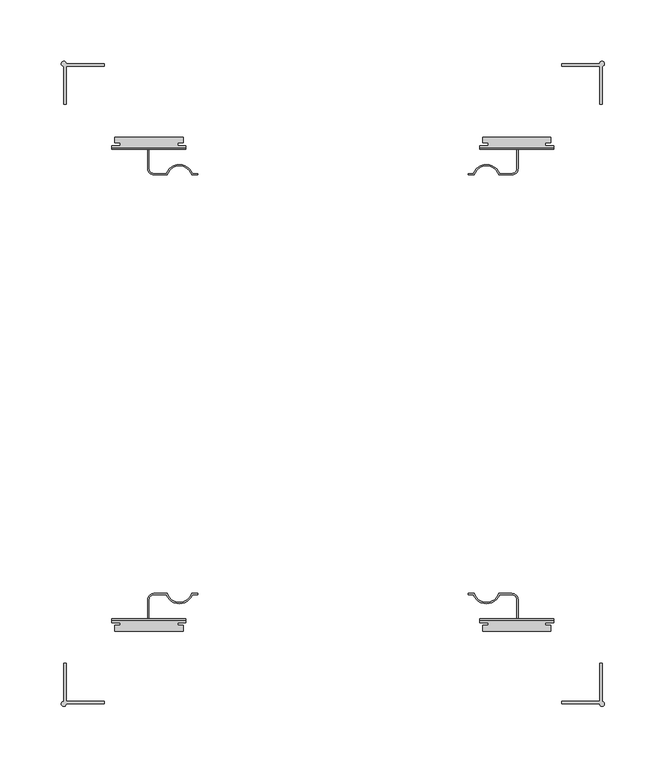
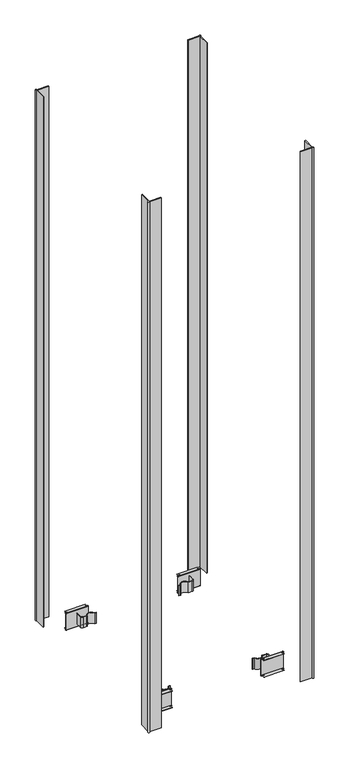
"""IFC4 building model written with IfcOpenShell, lengths in millimetres: column geometry, Облицовка колонн : КНАУФ-Суперлист три слоя."""

import ifcopenshell
import ifcopenshell.guid

model = None  # the IFC model being written
_history = None  # IfcOwnerHistory: only IFC2X3 demands one
_inside = {}  # id of a spatial element -> (the spatial element, [elements in it])
_under = {}  # id of a project, library or spatial element -> (it, [spatial elements below it])
_declared = {}  # id of a project -> (the project, [libraries it declares])
_typed = {}  # id of a type object -> (the type object, [elements of that type])
_made_of = {}  # id of a material, layer set ... -> (it, [elements and type objects made of it])


def new_model(schema):
    """Start an empty IFC model of exactly this schema.

    Asked for "IFC4X3", IfcOpenShell would pick the latest addendum, in which some entities
    have other attributes; the version numbers below select the first issue.
    IFC2X3 requires an IfcOwnerHistory on every rooted entity: one is made here for all.
    """
    global model, _history
    if schema == "IFC4X3":
        model = ifcopenshell.file(schema_version=(4, 3, 0, 0))
    else:
        model = ifcopenshell.file(schema=schema)
    _inside.clear()
    _under.clear()
    _declared.clear()
    _typed.clear()
    _made_of.clear()
    _history = None
    if model.schema == "IFC2X3":
        org = make("IfcOrganization", Name="unknown")
        user = make(
            "IfcPersonAndOrganization",
            ThePerson=make("IfcPerson", FamilyName="unknown"),
            TheOrganization=org,
        )
        app = make(
            "IfcApplication",
            ApplicationDeveloper=org,
            Version="unknown",
            ApplicationFullName="unknown",
            ApplicationIdentifier="unknown",
        )
        _history = make(
            "IfcOwnerHistory",
            OwningUser=user,
            OwningApplication=app,
            ChangeAction="ADDED",
            CreationDate=0,
        )
    return model


def make(cls, **values):
    """One entity of the class cls with the attributes given. An attribute that is None is left unset."""
    return model.create_entity(
        cls, **{name: value for name, value in values.items() if value is not None}
    )


def rooted(cls, **values):
    """An entity with a GlobalId (a new one), such as an element, a storey or a relation."""
    return make(cls, GlobalId=ifcopenshell.guid.new(), OwnerHistory=_history, **values)


def si_unit(unit_type, name, prefix=None):
    """IfcSIUnit, for example si_unit("LENGTHUNIT", "METRE", prefix="MILLI")."""
    return make("IfcSIUnit", UnitType=unit_type, Prefix=prefix, Name=name)


def assignment(units):
    """IfcUnitAssignment: the units of a project."""
    return None if units is None else make("IfcUnitAssignment", Units=units)


def point(xyz):
    """IfcCartesianPoint."""
    return None if xyz is None else make("IfcCartesianPoint", Coordinates=xyz)


def direction(xyz):
    """IfcDirection."""
    return None if xyz is None else make("IfcDirection", DirectionRatios=xyz)


def frame(location, z_axis=None, x_axis=None):
    """IfcAxis2Placement3D, a coordinate frame: its origin and axes. An axis left out is left unset."""
    return make(
        "IfcAxis2Placement3D",
        Location=point(location),
        Axis=direction(z_axis),
        RefDirection=direction(x_axis),
    )


def frame_2d(location, x_axis=None):
    """IfcAxis2Placement2D, a coordinate frame in the plane: its origin and x axis."""
    return make(
        "IfcAxis2Placement2D", Location=point(location), RefDirection=direction(x_axis)
    )


def origin():
    """The frame at (0, 0, 0) with its axes left unset."""
    return frame((0.0, 0.0, 0.0))


def origin_with_axes():
    """The frame at (0, 0, 0) with the z axis (0, 0, 1) and the x axis (1, 0, 0) written out."""
    return frame((0.0, 0.0, 0.0), z_axis=(0.0, 0.0, 1.0), x_axis=(1.0, 0.0, 0.0))


def place(relative_to, where):
    """IfcLocalPlacement: puts the frame where relative to a parent placement (None: the world)."""
    return make(
        "IfcLocalPlacement", PlacementRelTo=relative_to, RelativePlacement=where
    )


def context(
    kind, dimensions, precision=None, world=None, true_north=None, identifier=None
):
    """IfcGeometricRepresentationContext, for example the 3D "Model" context."""
    return make(
        "IfcGeometricRepresentationContext",
        ContextIdentifier=identifier,
        ContextType=kind,
        CoordinateSpaceDimension=dimensions,
        Precision=precision,
        WorldCoordinateSystem=world,
        TrueNorth=true_north,
    )


def project(units=None, contexts=None):
    """IfcProject with its units and contexts."""
    return rooted(
        "IfcProject",
        Name="project",
        RepresentationContexts=contexts,
        UnitsInContext=assignment(units),
    )


def spatial(cls, under=None, at=None, **own):
    """A site, building, storey or space (cls), placed at a placement, below another one or the project."""
    s = rooted(cls, ObjectPlacement=at, **own)
    if under is not None:
        _under.setdefault(under.id(), (under, []))[1].append(s)
    return s


def polyline(points):
    """IfcPolyline through the points."""
    return make("IfcPolyline", Points=[point(p) for p in points])


def circle_curve(where, radius):
    """IfcCircle in the frame where."""
    return make("IfcCircle", Position=where, Radius=radius)


def trimmed(basis, trim1, trim2, sense, master):
    """IfcTrimmedCurve: the piece of a basis curve between two trims."""
    return make(
        "IfcTrimmedCurve",
        BasisCurve=basis,
        Trim1=trim1,
        Trim2=trim2,
        SenseAgreement=sense,
        MasterRepresentation=master,
    )


def segment(curve, same_sense, transition):
    """IfcCompositeCurveSegment."""
    return make(
        "IfcCompositeCurveSegment",
        Transition=transition,
        SameSense=same_sense,
        ParentCurve=curve,
    )


def composite_curve(segments, self_intersect=None):
    """IfcCompositeCurve: segments joined end to end."""
    return make("IfcCompositeCurve", Segments=segments, SelfIntersect=self_intersect)


def outline(outer, holes=None, kind="AREA"):
    """IfcArbitraryClosedProfileDef: a profile drawn as a closed curve; with holes, ...WithVoids."""
    if holes is None:
        return make("IfcArbitraryClosedProfileDef", ProfileType=kind, OuterCurve=outer)
    return make(
        "IfcArbitraryProfileDefWithVoids",
        ProfileType=kind,
        OuterCurve=outer,
        InnerCurves=holes,
    )


def extrude(swept, where, along, depth):
    """IfcExtrudedAreaSolid: the profile swept, set in the frame where, extruded along a direction by depth."""
    return make(
        "IfcExtrudedAreaSolid",
        SweptArea=swept,
        Position=where,
        ExtrudedDirection=direction(along),
        Depth=depth,
    )


def shape(context_of_items, identifier, shape_type, items):
    """IfcShapeRepresentation: the items that make up one representation, for example the "Body"."""
    return make(
        "IfcShapeRepresentation",
        ContextOfItems=context_of_items,
        RepresentationIdentifier=identifier,
        RepresentationType=shape_type,
        Items=items,
    )


def source(mapping_origin, context_of_items, identifier, shape_type, items):
    """IfcRepresentationMap: a shape defined once, which mapped items show again and again."""
    return make(
        "IfcRepresentationMap",
        MappingOrigin=mapping_origin,
        MappedRepresentation=shape(context_of_items, identifier, shape_type, items),
    )


def transform(
    local_origin,
    x_axis=None,
    y_axis=None,
    z_axis=None,
    scale=None,
    scale2=None,
    scale3=None,
    uniform=True,
):
    """IfcCartesianTransformationOperator3D, or its non-uniform kind. x_axis, y_axis, z_axis: its Axis1, 2, 3."""
    if uniform:
        return make(
            "IfcCartesianTransformationOperator3D",
            Axis1=direction(x_axis),
            Axis2=direction(y_axis),
            LocalOrigin=point(local_origin),
            Scale=scale,
            Axis3=direction(z_axis),
        )
    return make(
        "IfcCartesianTransformationOperator3DnonUniform",
        Axis1=direction(x_axis),
        Axis2=direction(y_axis),
        LocalOrigin=point(local_origin),
        Scale=scale,
        Axis3=direction(z_axis),
        Scale2=scale2,
        Scale3=scale3,
    )


def mapped(mapping_source, mapping_target):
    """IfcMappedItem: shows the shape of a source again, moved by a transform."""
    return make(
        "IfcMappedItem", MappingSource=mapping_source, MappingTarget=mapping_target
    )


def made_of(thing, what):
    """Note that an element or type object is made of a material, layer set ...; save() writes the relation."""
    if what is not None:
        _made_of.setdefault(what.id(), (what, []))[1].append(thing)
    return thing


def element(
    cls,
    number,
    at=None,
    inside=None,
    cuts=None,
    type_object=None,
    material=None,
    context=None,
    identifier="Body",
    shape_type=None,
    held_by="IfcProductDefinitionShape",
    body=None,
    shapes=None,
    **own,
):
    """One element of the class cls, such as IfcWall. Its Tag is "e" and its number.

    at: its placement. inside: the storey or other place that contains it. cuts: it is an
    opening in that element (IfcRelVoidsElement). A single representation is given by context,
    identifier, shape_type and body (its items); several are given by shapes. held_by: the class
    of the entity that holds the representations. save() writes the other relations.
    """
    e = rooted(cls, Tag="e%d" % number, ObjectPlacement=at, **own)
    if body is not None:
        shapes = [shape(context, identifier, shape_type, body)]
    if shapes is not None:
        e.Representation = make(held_by, Representations=shapes)
    if inside is not None:
        _inside.setdefault(inside.id(), (inside, []))[1].append(e)
    if cuts is not None:
        rooted(
            "IfcRelVoidsElement", RelatingBuildingElement=cuts, RelatedOpeningElement=e
        )
    if type_object is not None:
        _typed.setdefault(type_object.id(), (type_object, []))[1].append(e)
    return made_of(e, material)


def aggregate(whole, parts):
    """IfcRelAggregates: a whole, such as a stair, and the parts it consists of."""
    return rooted("IfcRelAggregates", RelatingObject=whole, RelatedObjects=parts)


def save(model, path):
    """Write the relations noted so far, then the file.

    IfcRelAggregates (storeys below a building ...), IfcRelContainedInSpatialStructure (elements
    in a storey), IfcRelDefinesByType, IfcRelAssociatesMaterial and IfcRelDeclares: one each for
    every whole, place, type object, material and project.
    """
    for whole, parts in _under.values():
        aggregate(whole, parts)
    for where, things in _inside.values():
        rooted(
            "IfcRelContainedInSpatialStructure",
            RelatedElements=things,
            RelatingStructure=where,
        )
    for kind, things in _typed.values():
        rooted("IfcRelDefinesByType", RelatedObjects=things, RelatingType=kind)
    for what, things in _made_of.values():
        rooted("IfcRelAssociatesMaterial", RelatedObjects=things, RelatingMaterial=what)
    for by, libraries in _declared.values():
        rooted("IfcRelDeclares", RelatingContext=by, RelatedDefinitions=libraries)
    model.write(path)


def plane_surface(at):
    """IfcPlane: the flat surface through the origin of the frame at, square to its z axis."""
    return make("IfcPlane", Position=at)


def cylinder_surface(at, radius):
    """IfcCylindricalSurface: all points at the distance radius from the z axis of the frame at."""
    return make("IfcCylindricalSurface", Position=at, Radius=radius)


def advanced_brep(points, edges, surfaces, faces):
    """IfcAdvancedBrep: a solid bounded by faces that lie on surfaces and meet in shared edges.

    An edge is (start, end): straight between two places in points (the first is 0);
    or (start, end, curve); or (start, end, curve, False) where it runs against its curve.
    A face is (place in surfaces, loops), or (place, loops, False) where it looks against
    its surface's normal. A loop lists edges by number (the first is 1), with a minus sign
    where the edge is run from its end to its start. The first loop is the outer one.
    """
    corners = [point(p) for p in points]
    vertices = [make("IfcVertexPoint", VertexGeometry=c) for c in corners]
    made = []
    for start, end, *more in edges:
        made.append(
            make(
                "IfcEdgeCurve",
                EdgeStart=vertices[start],
                EdgeEnd=vertices[end],
                EdgeGeometry=more[0] if more else make("IfcPolyline", Points=[corners[start], corners[end]]),
                SameSense=more[1] if len(more) > 1 else True,
            )
        )
    hull = []
    for where, loops, *sense in faces:
        bounds = []
        for j, loop in enumerate(loops):
            ring = [make("IfcOrientedEdge", EdgeElement=made[abs(k) - 1], Orientation=k > 0) for k in loop]
            bounds.append(
                make(
                    "IfcFaceOuterBound" if j == 0 else "IfcFaceBound",
                    Bound=make("IfcEdgeLoop", EdgeList=ring),
                    Orientation=True,
                )
            )
        hull.append(make("IfcAdvancedFace", Bounds=bounds, FaceSurface=surfaces[where], SameSense=sense[0] if sense else True))
    return make("IfcAdvancedBrep", Outer=make("IfcClosedShell", CfsFaces=hull))


def column_7eb6c130(model_context):
    return source(origin(), model_context, "Body", "SolidModel", [
        extrude(outline(composite_curve([segment(polyline([(-186.5, -259.0), (-186.5, -261.0311253), (-217.5, -261.0311253)]), True, "CONTINUOUS"), segment(trimmed(circle_curve(frame_2d((-219.4874508, -261.0311253)), 1.9874508), [point((-217.5, -261.0311253))], [point((-219.4874508, -259.0436745))], False, "CARTESIAN"), True, "CONTINUOUS"), segment(polyline([(-219.4874508, -259.0436745), (-219.4874508, -228.0), (-217.5, -228.0), (-217.5, -259.0), (-186.5, -259.0)]), True, "CONTINUOUS")], self_intersect=False)), origin_with_axes(), (0.0, 0.0, 1.0), 1500.0),
        extrude(outline(composite_curve([segment(polyline([(-186.5, 259.0), (-217.5, 259.0), (-217.5, 228.0), (-219.4874508, 228.0), (-219.4874508, 259.0436745)]), True, "CONTINUOUS"), segment(trimmed(circle_curve(frame_2d((-219.4874508, 261.0311253)), 1.9874508), [point((-219.4874508, 259.0436745))], [point((-217.5, 261.0311253))], False, "CARTESIAN"), True, "CONTINUOUS"), segment(polyline([(-217.5, 261.0311253), (-186.5, 261.0311253), (-186.5, 259.0)]), True, "CONTINUOUS")], self_intersect=False)), origin_with_axes(), (0.0, 0.0, 1.0), 1500.0),
        extrude(outline(composite_curve([segment(polyline([(186.5, -259.0), (217.5, -259.0), (217.5, -228.0), (219.4874508, -228.0), (219.4874508, -259.0436745)]), True, "CONTINUOUS"), segment(trimmed(circle_curve(frame_2d((219.4874508, -261.0311253)), 1.9874508), [point((219.4874508, -259.0436745))], [point((217.5, -261.0311253))], False, "CARTESIAN"), True, "CONTINUOUS"), segment(polyline([(217.5, -261.0311253), (186.5, -261.0311253), (186.5, -259.0)]), True, "CONTINUOUS")], self_intersect=False)), origin_with_axes(), (0.0, 0.0, 1.0), 1500.0),
        extrude(outline(composite_curve([segment(polyline([(186.5, 259.0), (186.5, 261.0311253), (217.5, 261.0311253)]), True, "CONTINUOUS"), segment(trimmed(circle_curve(frame_2d((219.4874508, 261.0311253)), 1.9874508), [point((217.5, 261.0311253))], [point((219.4874508, 259.0436745))], False, "CARTESIAN"), True, "CONTINUOUS"), segment(polyline([(219.4874508, 259.0436745), (219.4874508, 228.0), (217.5, 228.0), (217.5, 259.0), (186.5, 259.0)]), True, "CONTINUOUS")], self_intersect=False)), origin_with_axes(), (0.0, 0.0, 1.0), 1500.0),
        advanced_brep(
        [(-180.2, 191.5, 46.0), (-180.2, 192.5, 47.0), (-180.2, 194.5, 47.0), (-180.2, 194.5, 46.0), (-180.2, 192.5, 46.0), (-180.2, 192.5, 0.0), (-180.2, 194.5, 0.0), (-180.2, 194.5, -1.0), (-180.2, 192.5, -1.0), (-180.2, 191.5, 0.0), (-119.8, 191.5, 46.0), (-119.8, 191.5, 0.0), (-119.8, 192.5, -1.0), (-119.8, 194.5, -1.0), (-119.8, 194.5, 0.0), (-119.8, 192.5, 0.0), (-119.8, 192.5, 46.0), (-119.8, 194.5, 46.0), (-119.8, 194.5, 47.0), (-119.8, 192.5, 47.0), (-126.6838154, 194.5, 47.0), (-126.6838154, 196.8, 47.0), (-122.2, 196.8, 47.0), (-122.2, 201.5, 47.0), (-177.8, 201.5, 47.0), (-177.8, 196.8, 47.0), (-173.3161846, 196.8, 47.0), (-173.3161846, 194.5, 47.0), (-177.8, 201.5, 46.0), (-122.2, 201.5, 46.0), (-173.3161846, 194.5, 46.0), (-173.3161846, 196.8, 46.0), (-177.8, 196.8, 46.0), (-122.2, 196.8, 46.0), (-126.6838154, 196.8, 46.0), (-126.6838154, 194.5, 46.0), (-126.6838154, 194.5, 0.0), (-126.6838154, 196.8, 0.0), (-122.2, 196.8, 0.0), (-122.2, 201.5, 0.0), (-177.8, 201.5, 0.0), (-177.8, 196.8, 0.0), (-173.3161846, 196.8, 0.0), (-173.3161846, 194.5, 0.0), (-177.8, 201.5, -1.0), (-122.2, 201.5, -1.0), (-173.3161846, 194.5, -1.0), (-173.3161846, 196.8, -1.0), (-177.8, 196.8, -1.0), (-122.2, 196.8, -1.0), (-126.6838154, 196.8, -1.0), (-126.6838154, 194.5, -1.0)],
        [
            (0, 1, circle_curve(frame((-180.2, 192.5, 46.0), z_axis=(-1.0, 0.0, 0.0), x_axis=(0.0, -1.0, 0.0)), 1.0)),
            (1, 2),
            (2, 3),
            (3, 4),
            (4, 5),
            (5, 6),
            (6, 7),
            (7, 8),
            (8, 9, circle_curve(frame((-180.2, 192.5, 0.0), z_axis=(-1.0, 0.0, 0.0), x_axis=(0.0, -1.0, 0.0)), 1.0)),
            (9, 0),
            (10, 11),
            (11, 12, circle_curve(frame((-119.8, 192.5, 0.0), z_axis=(1.0, 0.0, 0.0), x_axis=(0.0, -1.0, 0.0)), 1.0)),
            (12, 13),
            (13, 14),
            (14, 15),
            (15, 16),
            (16, 17),
            (17, 18),
            (18, 19),
            (19, 10, circle_curve(frame((-119.8, 192.5, 46.0), z_axis=(1.0, 0.0, 0.0), x_axis=(0.0, -1.0, 0.0)), 1.0)),
            (0, 10),
            (19, 1),
            (18, 20),
            (20, 21),
            (21, 22),
            (22, 23),
            (23, 24),
            (24, 25),
            (25, 26),
            (26, 27),
            (27, 2),
            (28, 24),
            (23, 29),
            (29, 28),
            (16, 4),
            (3, 30),
            (30, 31),
            (31, 32),
            (32, 28),
            (29, 33),
            (33, 34),
            (34, 35),
            (35, 17),
            (15, 5),
            (14, 36),
            (36, 37),
            (37, 38),
            (38, 39),
            (39, 40),
            (40, 41),
            (41, 42),
            (42, 43),
            (43, 6),
            (44, 40),
            (39, 45),
            (45, 44),
            (12, 8),
            (7, 46),
            (46, 47),
            (47, 48),
            (48, 44),
            (45, 49),
            (49, 50),
            (50, 51),
            (51, 13),
            (11, 9),
            (30, 27),
            (26, 31),
            (46, 43),
            (42, 47),
            (25, 32),
            (41, 48),
            (34, 21),
            (20, 35),
            (50, 37),
            (36, 51),
            (33, 22),
            (49, 38),
        ],
        [
            plane_surface(frame((-180.2, 191.5, 46.0), z_axis=(-1.0, 0.0, 0.0), x_axis=(0.0, 0.0, 1.0))),
            plane_surface(frame((-119.8, 191.5, 46.0), z_axis=(1.0, 0.0, 0.0), x_axis=(0.0, 0.0, -1.0))),
            cylinder_surface(frame((-119.8, 192.5, 46.0), z_axis=(-1.0, 0.0, 0.0), x_axis=(0.0, -1.0, 0.0)), 1.0),
            plane_surface(frame((-180.2, 192.5, 47.0), z_axis=(0.0, 0.0, 1.0), x_axis=(1.0, 0.0, 0.0))),
            plane_surface(frame((-180.2, 201.5, 47.0), z_axis=(0.0, 1.0, 0.0), x_axis=(1.0, 0.0, 0.0))),
            plane_surface(frame((-180.2, 201.5, 46.0), z_axis=(0.0, 0.0, -1.0), x_axis=(1.0, 0.0, 0.0))),
            plane_surface(frame((-180.2, 192.5, 46.0), z_axis=(0.0, 1.0, 0.0), x_axis=(1.0, 0.0, 0.0))),
            plane_surface(frame((-180.2, 192.5, 0.0), z_axis=(0.0, 0.0, 1.0), x_axis=(1.0, 0.0, 0.0))),
            plane_surface(frame((-180.2, 201.5, 0.0), z_axis=(0.0, 1.0, 0.0), x_axis=(1.0, 0.0, 0.0))),
            plane_surface(frame((-180.2, 201.5, -1.0), z_axis=(0.0, 0.0, -1.0), x_axis=(1.0, 0.0, 0.0))),
            cylinder_surface(frame((-119.8, 192.5, 0.0), z_axis=(-1.0, 0.0, 0.0), x_axis=(0.0, -1.0, 0.0)), 1.0),
            plane_surface(frame((-180.2, 191.5, 0.0), z_axis=(0.0, -1.0, 0.0), x_axis=(1.0, 0.0, 0.0))),
            plane_surface(frame((-173.3161846, 194.5, 47.0), z_axis=(-1.0, 0.0, 0.0), x_axis=(0.0, 0.0, -1.0))),
            plane_surface(frame((-173.3161846, 196.8, 47.0), z_axis=(0.0, -1.0, 0.0), x_axis=(0.0, 0.0, -1.0))),
            plane_surface(frame((-177.8, 196.8, 47.0), z_axis=(-1.0, 0.0, 0.0), x_axis=(0.0, 0.0, -1.0))),
            plane_surface(frame((-180.2, 194.5, 47.0), z_axis=(0.0, 1.0, 0.0), x_axis=(0.0, 0.0, -1.0))),
            plane_surface(frame((-126.6838154, 196.8, 47.0), z_axis=(1.0, 0.0, 0.0), x_axis=(0.0, 0.0, -1.0))),
            plane_surface(frame((-122.2, 196.8, 47.0), z_axis=(0.0, -1.0, 0.0), x_axis=(0.0, 0.0, -1.0))),
            plane_surface(frame((-122.2, 201.5, 47.0), z_axis=(1.0, 0.0, 0.0), x_axis=(0.0, 0.0, -1.0))),
            plane_surface(frame((-126.6838154, 194.5, 47.0), z_axis=(0.0, 1.0, 0.0), x_axis=(0.0, 0.0, -1.0))),
        ],
        [
            (0, [[1, 2, 3, 4, 5, 6, 7, 8, 9, 10]]),
            (1, [[11, 12, 13, 14, 15, 16, 17, 18, 19, 20]]),
            (2, [[-1, 21, -20, 22]]),
            (3, [[-22, -19, 23, 24, 25, 26, 27, 28, 29, 30, 31, -2]]),
            (4, [[32, -27, 33, 34]]),
            (5, [[35, -4, 36, 37, 38, 39, -34, 40, 41, 42, 43, -17]]),
            (6, [[-5, -35, -16, 44]]),
            (7, [[-44, -15, 45, 46, 47, 48, 49, 50, 51, 52, 53, -6]]),
            (8, [[54, -49, 55, 56]]),
            (9, [[57, -8, 58, 59, 60, 61, -56, 62, 63, 64, 65, -13]]),
            (10, [[-9, -57, -12, 66]]),
            (11, [[-10, -66, -11, -21]]),
            (12, [[67, -30, 68, -37]]),
            (12, [[69, -52, 70, -59]]),
            (13, [[-68, -29, 71, -38]]),
            (13, [[-70, -51, 72, -60]]),
            (14, [[-71, -28, -32, -39]]),
            (14, [[-72, -50, -54, -61]]),
            (15, [[-67, -36, -3, -31]]),
            (15, [[-69, -58, -7, -53]]),
            (16, [[73, -24, 74, -42]]),
            (16, [[75, -46, 76, -64]]),
            (17, [[-73, -41, 77, -25]]),
            (17, [[-75, -63, 78, -47]]),
            (18, [[-77, -40, -33, -26]]),
            (18, [[-78, -62, -55, -48]]),
            (19, [[-74, -23, -18, -43]]),
            (19, [[-76, -45, -14, -65]]),
        ],
    ),
        extrude(outline(composite_curve([segment(trimmed(circle_curve(frame_2d((-125.2, 167.4974781)), 10.5025219), [point((-115.2, 170.7073015))], [point((-135.2, 170.7073015))], True, "CARTESIAN"), True, "CONTINUOUS"), segment(polyline([(-135.2, 170.7073015), (-146.0, 170.7073015)]), True, "CONTINUOUS"), segment(trimmed(circle_curve(frame_2d((-146.0, 175.7073015)), 5.0), [point((-146.0, 170.7073015))], [point((-151.0, 175.7073015))], False, "CARTESIAN"), True, "CONTINUOUS"), segment(polyline([(-151.0, 175.7073015), (-151.0, 191.5), (-150.0, 191.5), (-150.0, 175.7073015)]), True, "CONTINUOUS"), segment(trimmed(circle_curve(frame_2d((-146.0, 175.7073015)), 4.0), [point((-150.0, 175.7073015))], [point((-146.0, 171.7073015))], True, "CARTESIAN"), True, "CONTINUOUS"), segment(polyline([(-146.0, 171.7073015), (-135.9044569, 171.7073015)]), True, "CONTINUOUS"), segment(trimmed(circle_curve(frame_2d((-125.2, 167.4974781)), 11.5025219), [point((-135.9044569, 171.7073015))], [point((-114.4955431, 171.7073015))], False, "CARTESIAN"), True, "CONTINUOUS"), segment(polyline([(-114.4955431, 171.7073015), (-110.2, 171.7073015), (-110.2, 170.7073015), (-115.2, 170.7073015)]), True, "CONTINUOUS")], self_intersect=False)), frame((0.0, 0.0, 8.0), z_axis=(0.0, 0.0, 1.0), x_axis=(1.0, 0.0, 0.0)), (0.0, 0.0, 1.0), 30.0),
        advanced_brep(
        [(180.2, 191.5, 46.0), (180.2, 191.5, 0.0), (180.2, 192.5, -1.0), (180.2, 194.5, -1.0), (180.2, 194.5, 0.0), (180.2, 192.5, 0.0), (180.2, 192.5, 46.0), (180.2, 194.5, 46.0), (180.2, 194.5, 47.0), (180.2, 192.5, 47.0), (119.8, 191.5, 46.0), (119.8, 192.5, 47.0), (119.8, 194.5, 47.0), (119.8, 194.5, 46.0), (119.8, 192.5, 46.0), (119.8, 192.5, 0.0), (119.8, 194.5, 0.0), (119.8, 194.5, -1.0), (119.8, 192.5, -1.0), (119.8, 191.5, 0.0), (173.3161846, 194.5, 47.0), (173.3161846, 196.8, 47.0), (177.8, 196.8, 47.0), (177.8, 201.5, 47.0), (122.2, 201.5, 47.0), (122.2, 196.8, 47.0), (126.6838154, 196.8, 47.0), (126.6838154, 194.5, 47.0), (177.8, 201.5, 46.0), (122.2, 201.5, 46.0), (126.6838154, 194.5, 46.0), (126.6838154, 196.8, 46.0), (122.2, 196.8, 46.0), (177.8, 196.8, 46.0), (173.3161846, 196.8, 46.0), (173.3161846, 194.5, 46.0), (173.3161846, 194.5, 0.0), (173.3161846, 196.8, 0.0), (177.8, 196.8, 0.0), (177.8, 201.5, 0.0), (122.2, 201.5, 0.0), (122.2, 196.8, 0.0), (126.6838154, 196.8, 0.0), (126.6838154, 194.5, 0.0), (177.8, 201.5, -1.0), (122.2, 201.5, -1.0), (126.6838154, 194.5, -1.0), (126.6838154, 196.8, -1.0), (122.2, 196.8, -1.0), (177.8, 196.8, -1.0), (173.3161846, 196.8, -1.0), (173.3161846, 194.5, -1.0)],
        [
            (0, 1),
            (1, 2, circle_curve(frame((180.2, 192.5, 0.0), z_axis=(1.0, 0.0, 0.0), x_axis=(0.0, -1.0, 0.0)), 1.0)),
            (2, 3),
            (3, 4),
            (4, 5),
            (5, 6),
            (6, 7),
            (7, 8),
            (8, 9),
            (9, 0, circle_curve(frame((180.2, 192.5, 46.0), z_axis=(1.0, 0.0, 0.0), x_axis=(0.0, -1.0, 0.0)), 1.0)),
            (10, 11, circle_curve(frame((119.8, 192.5, 46.0), z_axis=(-1.0, 0.0, 0.0), x_axis=(0.0, -1.0, 0.0)), 1.0)),
            (11, 12),
            (12, 13),
            (13, 14),
            (14, 15),
            (15, 16),
            (16, 17),
            (17, 18),
            (18, 19, circle_curve(frame((119.8, 192.5, 0.0), z_axis=(-1.0, 0.0, 0.0), x_axis=(0.0, -1.0, 0.0)), 1.0)),
            (19, 10),
            (9, 11),
            (10, 0),
            (8, 20),
            (20, 21),
            (21, 22),
            (22, 23),
            (23, 24),
            (24, 25),
            (25, 26),
            (26, 27),
            (27, 12),
            (28, 29),
            (29, 24),
            (23, 28),
            (13, 30),
            (30, 31),
            (31, 32),
            (32, 29),
            (28, 33),
            (33, 34),
            (34, 35),
            (35, 7),
            (6, 14),
            (5, 15),
            (4, 36),
            (36, 37),
            (37, 38),
            (38, 39),
            (39, 40),
            (40, 41),
            (41, 42),
            (42, 43),
            (43, 16),
            (44, 45),
            (45, 40),
            (39, 44),
            (17, 46),
            (46, 47),
            (47, 48),
            (48, 45),
            (44, 49),
            (49, 50),
            (50, 51),
            (51, 3),
            (2, 18),
            (1, 19),
            (34, 21),
            (20, 35),
            (50, 37),
            (36, 51),
            (33, 22),
            (49, 38),
            (30, 27),
            (26, 31),
            (46, 43),
            (42, 47),
            (25, 32),
            (41, 48),
        ],
        [
            plane_surface(frame((180.2, 191.5, 46.0), z_axis=(1.0, 0.0, 0.0), x_axis=(0.0, 0.0, 1.0))),
            plane_surface(frame((119.8, 191.5, 46.0), z_axis=(-1.0, 0.0, 0.0), x_axis=(0.0, 0.0, -1.0))),
            cylinder_surface(frame((119.8, 192.5, 46.0), z_axis=(1.0, 0.0, 0.0), x_axis=(0.0, -1.0, 0.0)), 1.0),
            plane_surface(frame((180.2, 192.5, 47.0), z_axis=(0.0, 0.0, 1.0), x_axis=(-1.0, 0.0, 0.0))),
            plane_surface(frame((180.2, 201.5, 47.0), z_axis=(0.0, 1.0, 0.0), x_axis=(-1.0, 0.0, 0.0))),
            plane_surface(frame((180.2, 201.5, 46.0), z_axis=(0.0, 0.0, -1.0), x_axis=(-1.0, 0.0, 0.0))),
            plane_surface(frame((180.2, 192.5, 46.0), z_axis=(0.0, 1.0, 0.0), x_axis=(-1.0, 0.0, 0.0))),
            plane_surface(frame((180.2, 192.5, 0.0), z_axis=(0.0, 0.0, 1.0), x_axis=(-1.0, 0.0, 0.0))),
            plane_surface(frame((180.2, 201.5, 0.0), z_axis=(0.0, 1.0, 0.0), x_axis=(-1.0, 0.0, 0.0))),
            plane_surface(frame((180.2, 201.5, -1.0), z_axis=(0.0, 0.0, -1.0), x_axis=(-1.0, 0.0, 0.0))),
            cylinder_surface(frame((119.8, 192.5, 0.0), z_axis=(1.0, 0.0, 0.0), x_axis=(0.0, -1.0, 0.0)), 1.0),
            plane_surface(frame((180.2, 191.5, 0.0), z_axis=(0.0, -1.0, 0.0), x_axis=(-1.0, 0.0, 0.0))),
            plane_surface(frame((173.3161846, 194.5, 47.0), z_axis=(1.0, 0.0, 0.0), x_axis=(0.0, 0.0, -1.0))),
            plane_surface(frame((173.3161846, 196.8, 47.0), z_axis=(0.0, -1.0, 0.0), x_axis=(0.0, 0.0, -1.0))),
            plane_surface(frame((177.8, 196.8, 47.0), z_axis=(1.0, 0.0, 0.0), x_axis=(0.0, 0.0, -1.0))),
            plane_surface(frame((180.2, 194.5, 47.0), z_axis=(0.0, 1.0, 0.0), x_axis=(0.0, 0.0, -1.0))),
            plane_surface(frame((126.6838154, 196.8, 47.0), z_axis=(-1.0, 0.0, 0.0), x_axis=(0.0, 0.0, -1.0))),
            plane_surface(frame((122.2, 196.8, 47.0), z_axis=(0.0, -1.0, 0.0), x_axis=(0.0, 0.0, -1.0))),
            plane_surface(frame((122.2, 201.5, 47.0), z_axis=(-1.0, 0.0, 0.0), x_axis=(0.0, 0.0, -1.0))),
            plane_surface(frame((126.6838154, 194.5, 47.0), z_axis=(0.0, 1.0, 0.0), x_axis=(0.0, 0.0, -1.0))),
        ],
        [
            (0, [[1, 2, 3, 4, 5, 6, 7, 8, 9, 10]]),
            (1, [[11, 12, 13, 14, 15, 16, 17, 18, 19, 20]]),
            (2, [[21, -11, 22, -10]]),
            (3, [[-9, 23, 24, 25, 26, 27, 28, 29, 30, 31, -12, -21]]),
            (4, [[32, 33, -27, 34]]),
            (5, [[-14, 35, 36, 37, 38, -32, 39, 40, 41, 42, -7, 43]]),
            (6, [[44, -15, -43, -6]]),
            (7, [[-5, 45, 46, 47, 48, 49, 50, 51, 52, 53, -16, -44]]),
            (8, [[54, 55, -49, 56]]),
            (9, [[-18, 57, 58, 59, 60, -54, 61, 62, 63, 64, -3, 65]]),
            (10, [[66, -19, -65, -2]]),
            (11, [[-22, -20, -66, -1]]),
            (12, [[-41, 67, -24, 68]]),
            (12, [[-63, 69, -46, 70]]),
            (13, [[-40, 71, -25, -67]]),
            (13, [[-62, 72, -47, -69]]),
            (14, [[-39, -34, -26, -71]]),
            (14, [[-61, -56, -48, -72]]),
            (15, [[-23, -8, -42, -68]]),
            (15, [[-45, -4, -64, -70]]),
            (16, [[-36, 73, -30, 74]]),
            (16, [[-58, 75, -52, 76]]),
            (17, [[-29, 77, -37, -74]]),
            (17, [[-51, 78, -59, -76]]),
            (18, [[-28, -33, -38, -77]]),
            (18, [[-50, -55, -60, -78]]),
            (19, [[-35, -13, -31, -73]]),
            (19, [[-57, -17, -53, -75]]),
        ],
    ),
        extrude(outline(composite_curve([segment(polyline([(115.2, 170.7073015), (110.2, 170.7073015), (110.2, 171.7073015), (114.4955431, 171.7073015)]), True, "CONTINUOUS"), segment(trimmed(circle_curve(frame_2d((125.2, 167.4974781)), 11.5025219), [point((114.4955431, 171.7073015))], [point((135.9044569, 171.7073015))], False, "CARTESIAN"), True, "CONTINUOUS"), segment(polyline([(135.9044569, 171.7073015), (146.0, 171.7073015)]), True, "CONTINUOUS"), segment(trimmed(circle_curve(frame_2d((146.0, 175.7073015)), 4.0), [point((146.0, 171.7073015))], [point((150.0, 175.7073015))], True, "CARTESIAN"), True, "CONTINUOUS"), segment(polyline([(150.0, 175.7073015), (150.0, 191.5), (151.0, 191.5), (151.0, 175.7073015)]), True, "CONTINUOUS"), segment(trimmed(circle_curve(frame_2d((146.0, 175.7073015)), 5.0), [point((151.0, 175.7073015))], [point((146.0, 170.7073015))], False, "CARTESIAN"), True, "CONTINUOUS"), segment(polyline([(146.0, 170.7073015), (135.2, 170.7073015)]), True, "CONTINUOUS"), segment(trimmed(circle_curve(frame_2d((125.2, 167.4974781)), 10.5025219), [point((135.2, 170.7073015))], [point((115.2, 170.7073015))], True, "CARTESIAN"), True, "CONTINUOUS")], self_intersect=False)), frame((0.0, 0.0, 8.0), z_axis=(0.0, 0.0, 1.0), x_axis=(1.0, 0.0, 0.0)), (0.0, 0.0, 1.0), 30.0),
        advanced_brep(
        [(-180.2, -191.5, 46.0), (-180.2, -191.5, 0.0), (-180.2, -192.5, -1.0), (-180.2, -194.5, -1.0), (-180.2, -194.5, 0.0), (-180.2, -192.5, 0.0), (-180.2, -192.5, 46.0), (-180.2, -194.5, 46.0), (-180.2, -194.5, 47.0), (-180.2, -192.5, 47.0), (-119.8, -191.5, 46.0), (-119.8, -192.5, 47.0), (-119.8, -194.5, 47.0), (-119.8, -194.5, 46.0), (-119.8, -192.5, 46.0), (-119.8, -192.5, 0.0), (-119.8, -194.5, 0.0), (-119.8, -194.5, -1.0), (-119.8, -192.5, -1.0), (-119.8, -191.5, 0.0), (-173.3161846, -194.5, 47.0), (-173.3161846, -196.8, 47.0), (-177.8, -196.8, 47.0), (-177.8, -201.5, 47.0), (-122.2, -201.5, 47.0), (-122.2, -196.8, 47.0), (-126.6838154, -196.8, 47.0), (-126.6838154, -194.5, 47.0), (-177.8, -201.5, 46.0), (-122.2, -201.5, 46.0), (-126.6838154, -194.5, 46.0), (-126.6838154, -196.8, 46.0), (-122.2, -196.8, 46.0), (-177.8, -196.8, 46.0), (-173.3161846, -196.8, 46.0), (-173.3161846, -194.5, 46.0), (-173.3161846, -194.5, 0.0), (-173.3161846, -196.8, 0.0), (-177.8, -196.8, 0.0), (-177.8, -201.5, 0.0), (-122.2, -201.5, 0.0), (-122.2, -196.8, 0.0), (-126.6838154, -196.8, 0.0), (-126.6838154, -194.5, 0.0), (-177.8, -201.5, -1.0), (-122.2, -201.5, -1.0), (-126.6838154, -194.5, -1.0), (-126.6838154, -196.8, -1.0), (-122.2, -196.8, -1.0), (-177.8, -196.8, -1.0), (-173.3161846, -196.8, -1.0), (-173.3161846, -194.5, -1.0)],
        [
            (0, 1),
            (1, 2, circle_curve(frame((-180.2, -192.5, 0.0), z_axis=(-1.0, 0.0, 0.0), x_axis=(0.0, 1.0, 0.0)), 1.0)),
            (2, 3),
            (3, 4),
            (4, 5),
            (5, 6),
            (6, 7),
            (7, 8),
            (8, 9),
            (9, 0, circle_curve(frame((-180.2, -192.5, 46.0), z_axis=(-1.0, 0.0, 0.0), x_axis=(0.0, 1.0, 0.0)), 1.0)),
            (10, 11, circle_curve(frame((-119.8, -192.5, 46.0), z_axis=(1.0, 0.0, 0.0), x_axis=(0.0, 1.0, 0.0)), 1.0)),
            (11, 12),
            (12, 13),
            (13, 14),
            (14, 15),
            (15, 16),
            (16, 17),
            (17, 18),
            (18, 19, circle_curve(frame((-119.8, -192.5, 0.0), z_axis=(1.0, 0.0, 0.0), x_axis=(0.0, 1.0, 0.0)), 1.0)),
            (19, 10),
            (9, 11),
            (10, 0),
            (8, 20),
            (20, 21),
            (21, 22),
            (22, 23),
            (23, 24),
            (24, 25),
            (25, 26),
            (26, 27),
            (27, 12),
            (28, 29),
            (29, 24),
            (23, 28),
            (13, 30),
            (30, 31),
            (31, 32),
            (32, 29),
            (28, 33),
            (33, 34),
            (34, 35),
            (35, 7),
            (6, 14),
            (5, 15),
            (4, 36),
            (36, 37),
            (37, 38),
            (38, 39),
            (39, 40),
            (40, 41),
            (41, 42),
            (42, 43),
            (43, 16),
            (44, 45),
            (45, 40),
            (39, 44),
            (17, 46),
            (46, 47),
            (47, 48),
            (48, 45),
            (44, 49),
            (49, 50),
            (50, 51),
            (51, 3),
            (2, 18),
            (1, 19),
            (34, 21),
            (20, 35),
            (50, 37),
            (36, 51),
            (33, 22),
            (49, 38),
            (30, 27),
            (26, 31),
            (46, 43),
            (42, 47),
            (25, 32),
            (41, 48),
        ],
        [
            plane_surface(frame((-180.2, -191.5, 46.0), z_axis=(-1.0, 0.0, 0.0), x_axis=(0.0, 0.0, 1.0))),
            plane_surface(frame((-119.8, -191.5, 46.0), z_axis=(1.0, 0.0, 0.0), x_axis=(0.0, 0.0, -1.0))),
            cylinder_surface(frame((-119.8, -192.5, 46.0), z_axis=(-1.0, 0.0, 0.0), x_axis=(0.0, 1.0, 0.0)), 1.0),
            plane_surface(frame((-180.2, -192.5, 47.0), z_axis=(0.0, 0.0, 1.0), x_axis=(1.0, 0.0, 0.0))),
            plane_surface(frame((-180.2, -201.5, 47.0), z_axis=(0.0, -1.0, 0.0), x_axis=(1.0, 0.0, 0.0))),
            plane_surface(frame((-180.2, -201.5, 46.0), z_axis=(0.0, 0.0, -1.0), x_axis=(1.0, 0.0, 0.0))),
            plane_surface(frame((-180.2, -192.5, 46.0), z_axis=(0.0, -1.0, 0.0), x_axis=(1.0, 0.0, 0.0))),
            plane_surface(frame((-180.2, -192.5, 0.0), z_axis=(0.0, 0.0, 1.0), x_axis=(1.0, 0.0, 0.0))),
            plane_surface(frame((-180.2, -201.5, 0.0), z_axis=(0.0, -1.0, 0.0), x_axis=(1.0, 0.0, 0.0))),
            plane_surface(frame((-180.2, -201.5, -1.0), z_axis=(0.0, 0.0, -1.0), x_axis=(1.0, 0.0, 0.0))),
            cylinder_surface(frame((-119.8, -192.5, 0.0), z_axis=(-1.0, 0.0, 0.0), x_axis=(0.0, 1.0, 0.0)), 1.0),
            plane_surface(frame((-180.2, -191.5, 0.0), z_axis=(0.0, 1.0, 0.0), x_axis=(1.0, 0.0, 0.0))),
            plane_surface(frame((-173.3161846, -194.5, 47.0), z_axis=(-1.0, 0.0, 0.0), x_axis=(0.0, 0.0, -1.0))),
            plane_surface(frame((-173.3161846, -196.8, 47.0), z_axis=(0.0, 1.0, 0.0), x_axis=(0.0, 0.0, -1.0))),
            plane_surface(frame((-177.8, -196.8, 47.0), z_axis=(-1.0, 0.0, 0.0), x_axis=(0.0, 0.0, -1.0))),
            plane_surface(frame((-180.2, -194.5, 47.0), z_axis=(0.0, -1.0, 0.0), x_axis=(0.0, 0.0, -1.0))),
            plane_surface(frame((-126.6838154, -196.8, 47.0), z_axis=(1.0, 0.0, 0.0), x_axis=(0.0, 0.0, -1.0))),
            plane_surface(frame((-122.2, -196.8, 47.0), z_axis=(0.0, 1.0, 0.0), x_axis=(0.0, 0.0, -1.0))),
            plane_surface(frame((-122.2, -201.5, 47.0), z_axis=(1.0, 0.0, 0.0), x_axis=(0.0, 0.0, -1.0))),
            plane_surface(frame((-126.6838154, -194.5, 47.0), z_axis=(0.0, -1.0, 0.0), x_axis=(0.0, 0.0, -1.0))),
        ],
        [
            (0, [[1, 2, 3, 4, 5, 6, 7, 8, 9, 10]]),
            (1, [[11, 12, 13, 14, 15, 16, 17, 18, 19, 20]]),
            (2, [[21, -11, 22, -10]]),
            (3, [[-9, 23, 24, 25, 26, 27, 28, 29, 30, 31, -12, -21]]),
            (4, [[32, 33, -27, 34]]),
            (5, [[-14, 35, 36, 37, 38, -32, 39, 40, 41, 42, -7, 43]]),
            (6, [[44, -15, -43, -6]]),
            (7, [[-5, 45, 46, 47, 48, 49, 50, 51, 52, 53, -16, -44]]),
            (8, [[54, 55, -49, 56]]),
            (9, [[-18, 57, 58, 59, 60, -54, 61, 62, 63, 64, -3, 65]]),
            (10, [[66, -19, -65, -2]]),
            (11, [[-22, -20, -66, -1]]),
            (12, [[-41, 67, -24, 68]]),
            (12, [[-63, 69, -46, 70]]),
            (13, [[-40, 71, -25, -67]]),
            (13, [[-62, 72, -47, -69]]),
            (14, [[-39, -34, -26, -71]]),
            (14, [[-61, -56, -48, -72]]),
            (15, [[-23, -8, -42, -68]]),
            (15, [[-45, -4, -64, -70]]),
            (16, [[-36, 73, -30, 74]]),
            (16, [[-58, 75, -52, 76]]),
            (17, [[-29, 77, -37, -74]]),
            (17, [[-51, 78, -59, -76]]),
            (18, [[-28, -33, -38, -77]]),
            (18, [[-50, -55, -60, -78]]),
            (19, [[-35, -13, -31, -73]]),
            (19, [[-57, -17, -53, -75]]),
        ],
    ),
        extrude(outline(composite_curve([segment(polyline([(-115.2, -170.7073015), (-110.2, -170.7073015), (-110.2, -171.7073015), (-114.4955431, -171.7073015)]), True, "CONTINUOUS"), segment(trimmed(circle_curve(frame_2d((-125.2, -167.4974781)), 11.5025219), [point((-114.4955431, -171.7073015))], [point((-135.9044569, -171.7073015))], False, "CARTESIAN"), True, "CONTINUOUS"), segment(polyline([(-135.9044569, -171.7073015), (-146.0, -171.7073015)]), True, "CONTINUOUS"), segment(trimmed(circle_curve(frame_2d((-146.0, -175.7073015)), 4.0), [point((-146.0, -171.7073015))], [point((-150.0, -175.7073015))], True, "CARTESIAN"), True, "CONTINUOUS"), segment(polyline([(-150.0, -175.7073015), (-150.0, -191.5), (-151.0, -191.5), (-151.0, -175.7073015)]), True, "CONTINUOUS"), segment(trimmed(circle_curve(frame_2d((-146.0, -175.7073015)), 5.0), [point((-151.0, -175.7073015))], [point((-146.0, -170.7073015))], False, "CARTESIAN"), True, "CONTINUOUS"), segment(polyline([(-146.0, -170.7073015), (-135.2, -170.7073015)]), True, "CONTINUOUS"), segment(trimmed(circle_curve(frame_2d((-125.2, -167.4974781)), 10.5025219), [point((-135.2, -170.7073015))], [point((-115.2, -170.7073015))], True, "CARTESIAN"), True, "CONTINUOUS")], self_intersect=False)), frame((0.0, 0.0, 8.0), z_axis=(0.0, 0.0, 1.0), x_axis=(1.0, 0.0, 0.0)), (0.0, 0.0, 1.0), 30.0),
        advanced_brep(
        [(180.2, -191.5, 46.0), (180.2, -192.5, 47.0), (180.2, -194.5, 47.0), (180.2, -194.5, 46.0), (180.2, -192.5, 46.0), (180.2, -192.5, 0.0), (180.2, -194.5, 0.0), (180.2, -194.5, -1.0), (180.2, -192.5, -1.0), (180.2, -191.5, 0.0), (119.8, -191.5, 46.0), (119.8, -191.5, 0.0), (119.8, -192.5, -1.0), (119.8, -194.5, -1.0), (119.8, -194.5, 0.0), (119.8, -192.5, 0.0), (119.8, -192.5, 46.0), (119.8, -194.5, 46.0), (119.8, -194.5, 47.0), (119.8, -192.5, 47.0), (126.6838154, -194.5, 47.0), (126.6838154, -196.8, 47.0), (122.2, -196.8, 47.0), (122.2, -201.5, 47.0), (177.8, -201.5, 47.0), (177.8, -196.8, 47.0), (173.3161846, -196.8, 47.0), (173.3161846, -194.5, 47.0), (177.8, -201.5, 46.0), (122.2, -201.5, 46.0), (173.3161846, -194.5, 46.0), (173.3161846, -196.8, 46.0), (177.8, -196.8, 46.0), (122.2, -196.8, 46.0), (126.6838154, -196.8, 46.0), (126.6838154, -194.5, 46.0), (126.6838154, -194.5, 0.0), (126.6838154, -196.8, 0.0), (122.2, -196.8, 0.0), (122.2, -201.5, 0.0), (177.8, -201.5, 0.0), (177.8, -196.8, 0.0), (173.3161846, -196.8, 0.0), (173.3161846, -194.5, 0.0), (177.8, -201.5, -1.0), (122.2, -201.5, -1.0), (173.3161846, -194.5, -1.0), (173.3161846, -196.8, -1.0), (177.8, -196.8, -1.0), (122.2, -196.8, -1.0), (126.6838154, -196.8, -1.0), (126.6838154, -194.5, -1.0)],
        [
            (0, 1, circle_curve(frame((180.2, -192.5, 46.0), z_axis=(1.0, 0.0, 0.0), x_axis=(0.0, 1.0, 0.0)), 1.0)),
            (1, 2),
            (2, 3),
            (3, 4),
            (4, 5),
            (5, 6),
            (6, 7),
            (7, 8),
            (8, 9, circle_curve(frame((180.2, -192.5, 0.0), z_axis=(1.0, 0.0, 0.0), x_axis=(0.0, 1.0, 0.0)), 1.0)),
            (9, 0),
            (10, 11),
            (11, 12, circle_curve(frame((119.8, -192.5, 0.0), z_axis=(-1.0, 0.0, 0.0), x_axis=(0.0, 1.0, 0.0)), 1.0)),
            (12, 13),
            (13, 14),
            (14, 15),
            (15, 16),
            (16, 17),
            (17, 18),
            (18, 19),
            (19, 10, circle_curve(frame((119.8, -192.5, 46.0), z_axis=(-1.0, 0.0, 0.0), x_axis=(0.0, 1.0, 0.0)), 1.0)),
            (0, 10),
            (19, 1),
            (18, 20),
            (20, 21),
            (21, 22),
            (22, 23),
            (23, 24),
            (24, 25),
            (25, 26),
            (26, 27),
            (27, 2),
            (28, 24),
            (23, 29),
            (29, 28),
            (16, 4),
            (3, 30),
            (30, 31),
            (31, 32),
            (32, 28),
            (29, 33),
            (33, 34),
            (34, 35),
            (35, 17),
            (15, 5),
            (14, 36),
            (36, 37),
            (37, 38),
            (38, 39),
            (39, 40),
            (40, 41),
            (41, 42),
            (42, 43),
            (43, 6),
            (44, 40),
            (39, 45),
            (45, 44),
            (12, 8),
            (7, 46),
            (46, 47),
            (47, 48),
            (48, 44),
            (45, 49),
            (49, 50),
            (50, 51),
            (51, 13),
            (11, 9),
            (30, 27),
            (26, 31),
            (46, 43),
            (42, 47),
            (25, 32),
            (41, 48),
            (34, 21),
            (20, 35),
            (50, 37),
            (36, 51),
            (33, 22),
            (49, 38),
        ],
        [
            plane_surface(frame((180.2, -191.5, 46.0), z_axis=(1.0, 0.0, 0.0), x_axis=(0.0, 0.0, 1.0))),
            plane_surface(frame((119.8, -191.5, 46.0), z_axis=(-1.0, 0.0, 0.0), x_axis=(0.0, 0.0, -1.0))),
            cylinder_surface(frame((119.8, -192.5, 46.0), z_axis=(1.0, 0.0, 0.0), x_axis=(0.0, 1.0, 0.0)), 1.0),
            plane_surface(frame((180.2, -192.5, 47.0), z_axis=(0.0, 0.0, 1.0), x_axis=(-1.0, 0.0, 0.0))),
            plane_surface(frame((180.2, -201.5, 47.0), z_axis=(0.0, -1.0, 0.0), x_axis=(-1.0, 0.0, 0.0))),
            plane_surface(frame((180.2, -201.5, 46.0), z_axis=(0.0, 0.0, -1.0), x_axis=(-1.0, 0.0, 0.0))),
            plane_surface(frame((180.2, -192.5, 46.0), z_axis=(0.0, -1.0, 0.0), x_axis=(-1.0, 0.0, 0.0))),
            plane_surface(frame((180.2, -192.5, 0.0), z_axis=(0.0, 0.0, 1.0), x_axis=(-1.0, 0.0, 0.0))),
            plane_surface(frame((180.2, -201.5, 0.0), z_axis=(0.0, -1.0, 0.0), x_axis=(-1.0, 0.0, 0.0))),
            plane_surface(frame((180.2, -201.5, -1.0), z_axis=(0.0, 0.0, -1.0), x_axis=(-1.0, 0.0, 0.0))),
            cylinder_surface(frame((119.8, -192.5, 0.0), z_axis=(1.0, 0.0, 0.0), x_axis=(0.0, 1.0, 0.0)), 1.0),
            plane_surface(frame((180.2, -191.5, 0.0), z_axis=(0.0, 1.0, 0.0), x_axis=(-1.0, 0.0, 0.0))),
            plane_surface(frame((173.3161846, -194.5, 47.0), z_axis=(1.0, 0.0, 0.0), x_axis=(0.0, 0.0, -1.0))),
            plane_surface(frame((173.3161846, -196.8, 47.0), z_axis=(0.0, 1.0, 0.0), x_axis=(0.0, 0.0, -1.0))),
            plane_surface(frame((177.8, -196.8, 47.0), z_axis=(1.0, 0.0, 0.0), x_axis=(0.0, 0.0, -1.0))),
            plane_surface(frame((180.2, -194.5, 47.0), z_axis=(0.0, -1.0, 0.0), x_axis=(0.0, 0.0, -1.0))),
            plane_surface(frame((126.6838154, -196.8, 47.0), z_axis=(-1.0, 0.0, 0.0), x_axis=(0.0, 0.0, -1.0))),
            plane_surface(frame((122.2, -196.8, 47.0), z_axis=(0.0, 1.0, 0.0), x_axis=(0.0, 0.0, -1.0))),
            plane_surface(frame((122.2, -201.5, 47.0), z_axis=(-1.0, 0.0, 0.0), x_axis=(0.0, 0.0, -1.0))),
            plane_surface(frame((126.6838154, -194.5, 47.0), z_axis=(0.0, -1.0, 0.0), x_axis=(0.0, 0.0, -1.0))),
        ],
        [
            (0, [[1, 2, 3, 4, 5, 6, 7, 8, 9, 10]]),
            (1, [[11, 12, 13, 14, 15, 16, 17, 18, 19, 20]]),
            (2, [[-1, 21, -20, 22]]),
            (3, [[-22, -19, 23, 24, 25, 26, 27, 28, 29, 30, 31, -2]]),
            (4, [[32, -27, 33, 34]]),
            (5, [[35, -4, 36, 37, 38, 39, -34, 40, 41, 42, 43, -17]]),
            (6, [[-5, -35, -16, 44]]),
            (7, [[-44, -15, 45, 46, 47, 48, 49, 50, 51, 52, 53, -6]]),
            (8, [[54, -49, 55, 56]]),
            (9, [[57, -8, 58, 59, 60, 61, -56, 62, 63, 64, 65, -13]]),
            (10, [[-9, -57, -12, 66]]),
            (11, [[-10, -66, -11, -21]]),
            (12, [[67, -30, 68, -37]]),
            (12, [[69, -52, 70, -59]]),
            (13, [[-68, -29, 71, -38]]),
            (13, [[-70, -51, 72, -60]]),
            (14, [[-71, -28, -32, -39]]),
            (14, [[-72, -50, -54, -61]]),
            (15, [[-67, -36, -3, -31]]),
            (15, [[-69, -58, -7, -53]]),
            (16, [[73, -24, 74, -42]]),
            (16, [[75, -46, 76, -64]]),
            (17, [[-73, -41, 77, -25]]),
            (17, [[-75, -63, 78, -47]]),
            (18, [[-77, -40, -33, -26]]),
            (18, [[-78, -62, -55, -48]]),
            (19, [[-74, -23, -18, -43]]),
            (19, [[-76, -45, -14, -65]]),
        ],
    ),
        extrude(outline(composite_curve([segment(trimmed(circle_curve(frame_2d((125.2, -167.4974781)), 10.5025219), [point((115.2, -170.7073015))], [point((135.2, -170.7073015))], True, "CARTESIAN"), True, "CONTINUOUS"), segment(polyline([(135.2, -170.7073015), (146.0, -170.7073015)]), True, "CONTINUOUS"), segment(trimmed(circle_curve(frame_2d((146.0, -175.7073015)), 5.0), [point((146.0, -170.7073015))], [point((151.0, -175.7073015))], False, "CARTESIAN"), True, "CONTINUOUS"), segment(polyline([(151.0, -175.7073015), (151.0, -191.5), (150.0, -191.5), (150.0, -175.7073015)]), True, "CONTINUOUS"), segment(trimmed(circle_curve(frame_2d((146.0, -175.7073015)), 4.0), [point((150.0, -175.7073015))], [point((146.0, -171.7073015))], True, "CARTESIAN"), True, "CONTINUOUS"), segment(polyline([(146.0, -171.7073015), (135.9044569, -171.7073015)]), True, "CONTINUOUS"), segment(trimmed(circle_curve(frame_2d((125.2, -167.4974781)), 11.5025219), [point((135.9044569, -171.7073015))], [point((114.4955431, -171.7073015))], False, "CARTESIAN"), True, "CONTINUOUS"), segment(polyline([(114.4955431, -171.7073015), (110.2, -171.7073015), (110.2, -170.7073015), (115.2, -170.7073015)]), True, "CONTINUOUS")], self_intersect=False)), frame((0.0, 0.0, 8.0), z_axis=(0.0, 0.0, 1.0), x_axis=(1.0, 0.0, 0.0)), (0.0, 0.0, 1.0), 30.0),
    ])


if __name__ == "__main__":
    model = new_model("IFC4")
    model_context = context("Model", 3, world=origin())
    ifc_project = project(units=[si_unit("LENGTHUNIT", "METRE", prefix="MILLI")], contexts=[model_context])
    site = spatial("IfcSite", under=ifc_project)
    building = spatial("IfcBuilding", under=site)
    placement = place(None, origin())
    column_shape = column_7eb6c130(model_context)
    element("IfcColumn", 1, ObjectType="Облицовка колонн : КНАУФ-Суперлист три слоя", at=placement, inside=building, context=model_context, shape_type="MappedRepresentation", body=[
        mapped(column_shape, transform((0.0, 0.0, 0.0), x_axis=(1.0, 0.0, 0.0), y_axis=(0.0, 1.0, 0.0), z_axis=(0.0, 0.0, 1.0))),
    ])
    save(model, "model.ifc")
